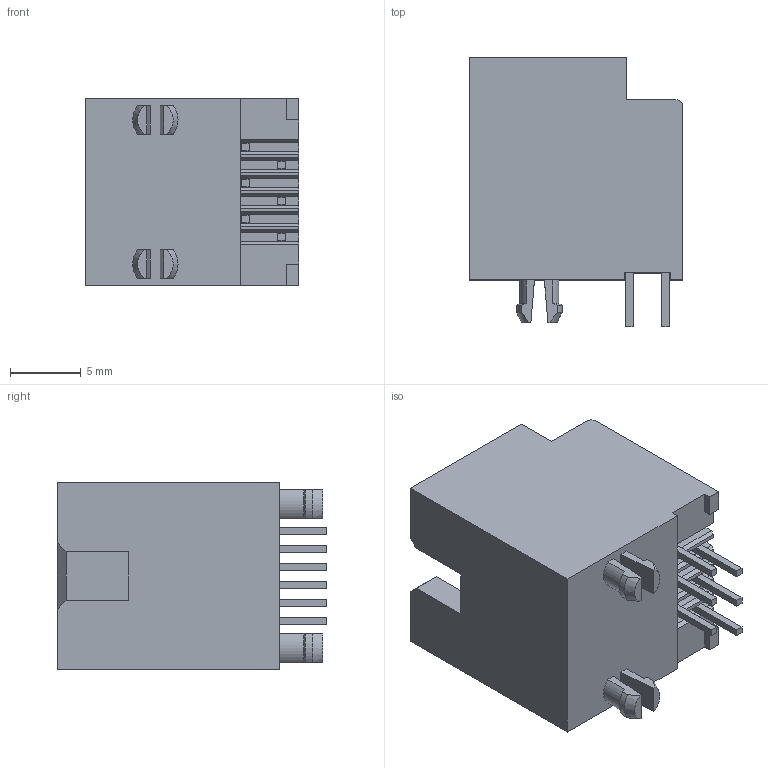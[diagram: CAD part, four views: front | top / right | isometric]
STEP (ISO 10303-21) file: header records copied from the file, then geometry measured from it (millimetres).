
FILE_DESCRIPTION((''),'2;1');
FILE_NAME('955032661','2013-04-23T',('me'),(''),'PRO/ENGINEER BY PARAMETRIC TECHNOLOGY CORPORATION, 2011490','PRO/ENGINEER BY PARAMETRIC TECHNOLOGY CORPORATION, 2011490','');
FILE_SCHEMA(('CONFIG_CONTROL_DESIGN'));
Length unit declared in the file: millimetre
Products named in the file (1): 955032661
Bounding box: 15.08 x 19 x 13.21 mm (x, y, z)
Volume: 2001.2 mm3; surface area: 2007.3 mm2
Topology: 1 solids, 1 shells, 185 faces, 506 edges, 333 vertices
Faces by surface type: plane 168, cylinder 9, cone 8
Entity records: 5808 total; most frequent: CARTESIAN_POINT 1088, ORIENTED_EDGE 1012, DIRECTION 882, EDGE_CURVE 506, VECTOR 468, LINE 468, VERTEX_POINT 333, AXIS2_PLACEMENT_3D 207
